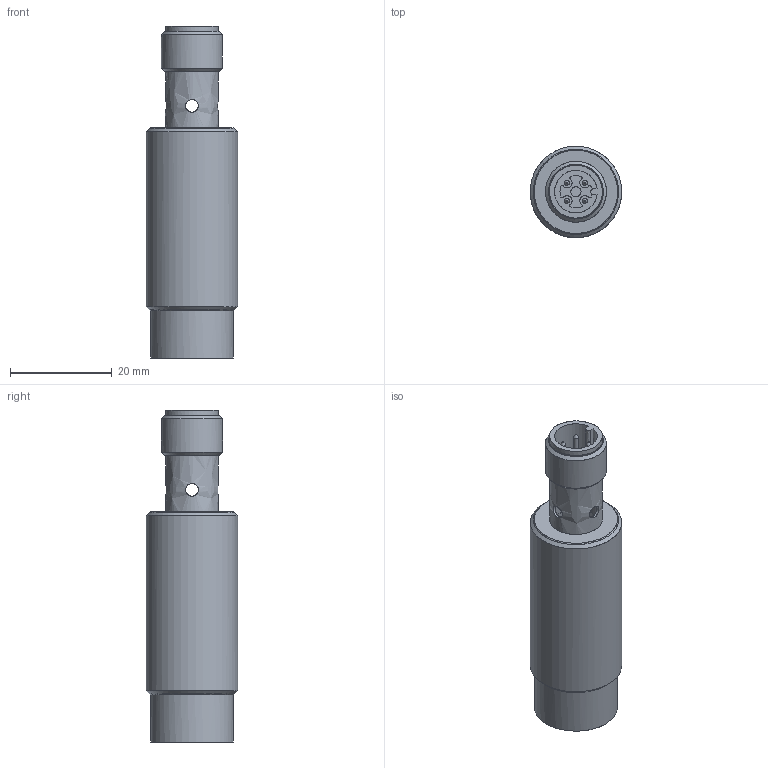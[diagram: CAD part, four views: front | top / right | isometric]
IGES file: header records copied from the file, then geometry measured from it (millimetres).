
Global section: file name: D:\dd\DSD-0327.igs; preprocessor: I-DEAS 3D IGES Translator 13; date: 20100122.131605; units: millimetre
Bounding box: 17.97 x 17.99 x 65.3 mm (x, y, z)
Surface area: 8241.3 mm2
Topology: 4 solids, 4 shells, 79 faces, 514 edges, 452 vertices
Faces by surface type: bspline 79
